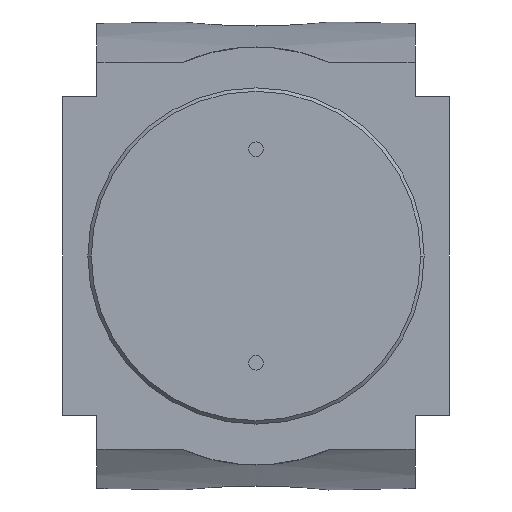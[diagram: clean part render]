
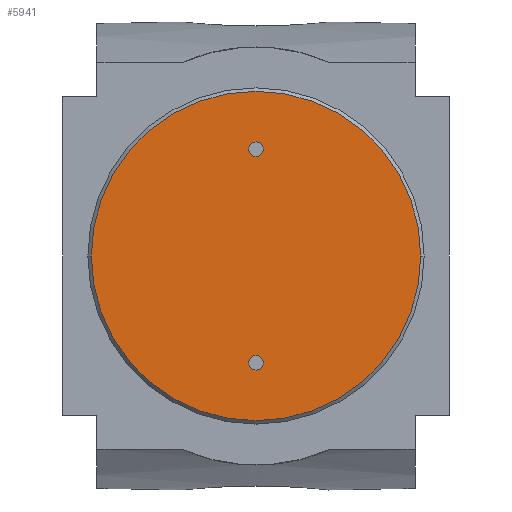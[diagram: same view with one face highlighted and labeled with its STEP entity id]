
A CAD part, front view. The second image highlights one B-rep face of the part: STEP entity #5941.
In plain terms, the highlighted planar face has unit normal (0, -1, 0).
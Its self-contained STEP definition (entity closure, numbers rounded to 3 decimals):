
#2656=CARTESIAN_POINT('',(0.,-54.,0.));
#2657=DIRECTION('',(0.,-1.,0.));
#2658=DIRECTION('',(-1.,0.,0.));
#2659=AXIS2_PLACEMENT_3D('',#2656,#2657,#2658);
#2664=CARTESIAN_POINT('',(0.,-54.,0.));
#2665=DIRECTION('',(0.,1.,0.));
#2666=DIRECTION('',(-1.,0.,0.));
#2667=AXIS2_PLACEMENT_3D('',#2664,#2665,#2666);
#2672=CARTESIAN_POINT('',(0.,-54.,23.5));
#2673=DIRECTION('',(0.,-1.,0.));
#2674=DIRECTION('',(0.,0.,-1.));
#2675=AXIS2_PLACEMENT_3D('',#2672,#2673,#2674);
#2680=CARTESIAN_POINT('',(0.,-54.,23.5));
#2681=DIRECTION('',(0.,-1.,0.));
#2682=DIRECTION('',(0.,0.,1.));
#2683=AXIS2_PLACEMENT_3D('',#2680,#2681,#2682);
#2688=CARTESIAN_POINT('',(0.,-54.,-23.5));
#2689=DIRECTION('',(0.,-1.,0.));
#2690=DIRECTION('',(0.,0.,-1.));
#2691=AXIS2_PLACEMENT_3D('',#2688,#2689,#2690);
#2696=CARTESIAN_POINT('',(0.,-54.,-23.5));
#2697=DIRECTION('',(0.,-1.,0.));
#2698=DIRECTION('',(0.,0.,1.));
#2699=AXIS2_PLACEMENT_3D('',#2696,#2697,#2698);
#3087=CARTESIAN_POINT('',(0.,-54.,21.9));
#3088=CARTESIAN_POINT('',(0.,-54.,25.1));
#3089=VERTEX_POINT('',#3087);
#3090=VERTEX_POINT('',#3088);
#3091=CARTESIAN_POINT('',(0.,-54.,-25.1));
#3092=CARTESIAN_POINT('',(0.,-54.,-21.9));
#3093=VERTEX_POINT('',#3091);
#3094=VERTEX_POINT('',#3092);
#3239=CARTESIAN_POINT('',(-36.25,-54.,0.));
#3240=VERTEX_POINT('',#3239);
#3241=CARTESIAN_POINT('',(36.25,-54.,0.));
#3242=VERTEX_POINT('',#3241);
#5920=CARTESIAN_POINT('',(0.,-54.,0.));
#5921=DIRECTION('',(0.,1.,0.));
#5922=DIRECTION('',(1.,0.,0.));
#5923=AXIS2_PLACEMENT_3D('',#5920,#5921,#5922);
#5924=PLANE('1320',#5923);
#5925=ORIENTED_EDGE('8141',*,*,#5899,.F.);
#5926=ORIENTED_EDGE('8131',*,*,#5915,.T.);
#5927=EDGE_LOOP('1320',(#5925,#5926));
#5928=FACE_OUTER_BOUND('1320',#5927,.F.);
#5930=ORIENTED_EDGE('4079',*,*,#5929,.T.);
#5932=ORIENTED_EDGE('4080',*,*,#5931,.T.);
#5933=EDGE_LOOP('1320',(#5930,#5932));
#5934=FACE_BOUND('1320',#5933,.F.);
#5936=ORIENTED_EDGE('4081',*,*,#5935,.T.);
#5938=ORIENTED_EDGE('4082',*,*,#5937,.T.);
#5939=EDGE_LOOP('1320',(#5936,#5938));
#5940=FACE_BOUND('1320',#5939,.F.);
#5941=ADVANCED_FACE('1320',(#5928,#5934,#5940),#5924,.F.);
#2660=CIRCLE('8141',#2659,36.25);
#2668=CIRCLE('8131',#2667,36.25);
#2676=CIRCLE('4079',#2675,1.6);
#2684=CIRCLE('4080',#2683,1.6);
#2692=CIRCLE('4081',#2691,1.6);
#2700=CIRCLE('4082',#2699,1.6);
#5899=EDGE_CURVE('8141',#3240,#3242,#2660,.T.);
#5915=EDGE_CURVE('8131',#3240,#3242,#2668,.T.);
#5929=EDGE_CURVE('4079',#3089,#3090,#2676,.T.);
#5931=EDGE_CURVE('4080',#3090,#3089,#2684,.T.);
#5935=EDGE_CURVE('4081',#3093,#3094,#2692,.T.);
#5937=EDGE_CURVE('4082',#3094,#3093,#2700,.T.);
